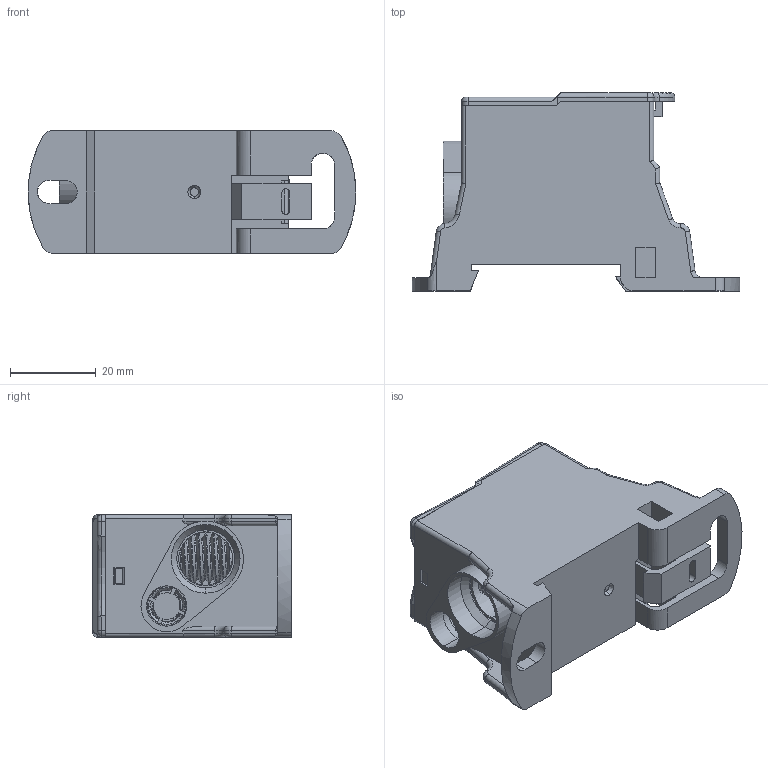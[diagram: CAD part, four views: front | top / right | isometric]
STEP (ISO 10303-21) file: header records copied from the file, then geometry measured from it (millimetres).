
FILE_DESCRIPTION (( 'STEP AP214' ), '1' );
FILE_NAME ('160A..STEP', '2021-01-17T05:46:14', ( '微软用户' ), ( '微软中国' ), 'SwSTEP 2.0', 'SolidWorks 2008', '' );
FILE_SCHEMA (( 'AUTOMOTIVE_DESIGN' ));
Length unit declared in the file: millimetre
Products named in the file (1): 160A.
Bounding box: 76.36 x 46.2 x 28.6 mm (x, y, z)
Surface area: 33378.5 mm2 (no closed solid volume)
Topology: 0 solids, 12 shells, 1501 faces, 4203 edges, 2745 vertices
Faces by surface type: bspline 582, cylinder 537, plane 272, cone 52, torus 50, sphere 8
Entity records: 154184 total; most frequent: CARTESIAN_POINT 112360, ORIENTED_EDGE 8313, EDGE_CURVE 4158, DIRECTION 3816, VERTEX_POINT 2731, B_SPLINE_CURVE_WITH_KNOTS 2461, EDGE_LOOP 1612, ADVANCED_FACE 1497
